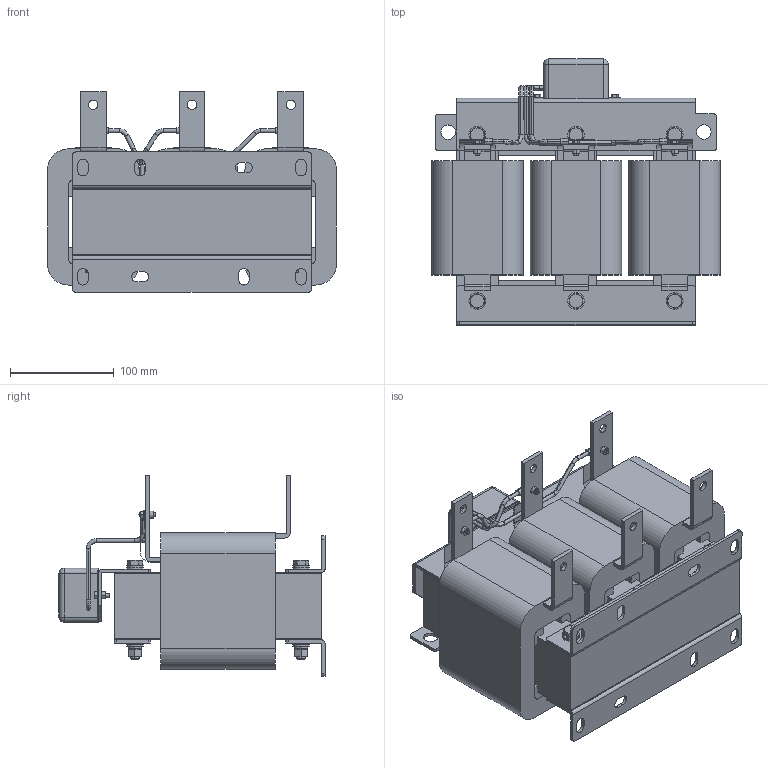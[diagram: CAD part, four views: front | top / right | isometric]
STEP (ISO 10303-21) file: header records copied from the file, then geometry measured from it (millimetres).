
FILE_DESCRIPTION (( 'STEP AP203' ), '1' );
FILE_NAME ('Ñèëîâûå êëåììû _ IDUDT-75_96-6.STEP', '2026-05-06T10:04:45', ( '' ), ( '' ), 'SwSTEP 2.0', 'SolidWorks 2021', '' );
FILE_SCHEMA (( 'CONFIG_CONTROL_DESIGN' ));
Length unit declared in the file: millimetre
Products named in the file (44): DVT-线圈-75kW_3; Ñèëîâûå êëåììû _ IDUDT-75_96-6; DVT-线圈-75kW_2; 电容引线-132kW; 电容盒-SKS-0901.601-LJ-A2; RNB3.5-4; DVT-线圈-75kW_13; M8ﾂﾝﾄｸ+ｵｯ+ﾋｫﾆｽ_5; ﾏﾂｼﾐｼ-230｡ﾁ38｡ﾁ35; 电容引线-132kW_1; M8ﾂﾝﾄｸ+ｵｯ+ﾋｫﾆｽ; DVT-线圈-75kW_9; DVT-线圈-75kW_14; hex nut-fine pitch-style washer-grade ab gb_GB_HEXAGON_TYPE10_1 M8X1-N; RNB1.25-4; M8ﾂﾝﾄｸ+ｵｯ+ﾋｫﾆｽ_4; DVT-线圈-75kW_11; DVT-线圈-75kW_4; DVT-线圈-75kW_10; DVT-线圈-75kW_8; DVT-内出线排25×4-110kW; 0.25橈埽祧-35; 嶺啣沭40-200; DVT-外出线排25×4-60; 三相铁芯230-40-63-H200; M4℅12坋趼鞠褒芛蹟邡; DVT-线圈-75kW; M8ﾂﾝﾄｸ+ｵｯ+ﾋｫﾆｽ_3; 电容引线-132kW_2; spring lock washers--normal type gb_GB_FASTENER_WASHER_SW 8; M8ﾂﾝﾄｸ+ｵｯ+ﾋｫﾆｽ_1; M8℅90蹟裝; ﾉﾏｼﾐｼ250｡ﾁ35｡ﾁ3; DVT-线圈-75kW_1; plain washers--product grade c gb_GB_FASTENER_WASHER_SMWC 8; M4す菜; DVT-线圈-75kW_5; DVT-线圈-75kW_12; M8ﾂﾝﾄｸ+ｵｯ+ﾋｫﾆｽ_2; DVT-线圈-75kW_6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
Assembly tree (100 placements, depth 3):
  Ñèëîâûå êëåììû _ IDUDT-75_96-6
    三相铁芯230-40-63-H200
    嶺啣沭40-200  x6
    ﾉﾏｼﾐｼ250｡ﾁ35｡ﾁ3
    ﾏﾂｼﾐｼ-230｡ﾁ38｡ﾁ35  x2
    plain washers--product grade c gb_GB_FASTENER_WASHER_SMWC 8  x12
    M8℅90蹟裝  x6
    M8ﾂﾝﾄｸ+ｵｯ+ﾋｫﾆｽ
      hex nut-fine pitch-style washer-grade ab gb_GB_HEXAGON_TYPE10_1 M8X1-N
      spring lock washers--normal type gb_GB_FASTENER_WASHER_SW 8
      plain washers--product grade c gb_GB_FASTENER_WASHER_SMWC 8  x2
    M8ﾂﾝﾄｸ+ｵｯ+ﾋｫﾆｽ_1
      hex nut-fine pitch-style washer-grade ab gb_GB_HEXAGON_TYPE10_1 M8X1-N
      spring lock washers--normal type gb_GB_FASTENER_WASHER_SW 8
      plain washers--product grade c gb_GB_FASTENER_WASHER_SMWC 8  x2
    DVT-外出线排25×4-60  x3
    M8ﾂﾝﾄｸ+ｵｯ+ﾋｫﾆｽ_2
      hex nut-fine pitch-style washer-grade ab gb_GB_HEXAGON_TYPE10_1 M8X1-N
      spring lock washers--normal type gb_GB_FASTENER_WASHER_SW 8
      plain washers--product grade c gb_GB_FASTENER_WASHER_SMWC 8  x2
    M8ﾂﾝﾄｸ+ｵｯ+ﾋｫﾆｽ_3
      hex nut-fine pitch-style washer-grade ab gb_GB_HEXAGON_TYPE10_1 M8X1-N
      spring lock washers--normal type gb_GB_FASTENER_WASHER_SW 8
      plain washers--product grade c gb_GB_FASTENER_WASHER_SMWC 8  x2
    M8ﾂﾝﾄｸ+ｵｯ+ﾋｫﾆｽ_4
      hex nut-fine pitch-style washer-grade ab gb_GB_HEXAGON_TYPE10_1 M8X1-N
      spring lock washers--normal type gb_GB_FASTENER_WASHER_SW 8
      plain washers--product grade c gb_GB_FASTENER_WASHER_SMWC 8  x2
    M8ﾂﾝﾄｸ+ｵｯ+ﾋｫﾆｽ_5
      hex nut-fine pitch-style washer-grade ab gb_GB_HEXAGON_TYPE10_1 M8X1-N
      spring lock washers--normal type gb_GB_FASTENER_WASHER_SW 8
      plain washers--product grade c gb_GB_FASTENER_WASHER_SMWC 8  x2
    ﾉﾏｼﾐｼ-250｡ﾁ50｡ﾁ50
    电容盒-SKS-0901.601-LJ-A2
    M4℅12坋趼鞠褒芛蹟邡  x5
    DVT-内出线排25×4-110kW  x3
    RNB1.25-4
    M4す菜  x3
    RNB3.5-4  x2
    电容引线-132kW
      电容引线-132kW_1
      电容引线-132kW
      电容引线-132kW_2
    0.25橈埽祧-35  x3
    DVT-线圈-75kW
      DVT-线圈-75kW_5
      DVT-线圈-75kW_6
      DVT-线圈-75kW_10
      DVT-线圈-75kW_1
      DVT-线圈-75kW_3
      DVT-线圈-75kW_8
      DVT-线圈-75kW_7
      DVT-线圈-75kW_4
      DVT-线圈-75kW_13
      DVT-线圈-75kW_11
      DVT-线圈-75kW_2
      DVT-线圈-75kW_9
      DVT-线圈-75kW
      DVT-线圈-75kW_12
      DVT-线圈-75kW_14
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Bounding box: 278 x 256 x 193 mm (x, y, z)
Volume: 5054269.4 mm3; surface area: 835191.6 mm2
Topology: 92 solids, 92 shells, 1318 faces, 3120 edges, 2022 vertices
Faces by surface type: plane 663, cylinder 458, cone 166, bspline 26, sphere 5
Entity records: 24447 total; most frequent: CARTESIAN_POINT 3546, DIRECTION 3301, ORIENTED_EDGE 2880, EDGE_CURVE 1440, AXIS2_PLACEMENT_3D 1221, VERTEX_POINT 938, VECTOR 859, LINE 859
